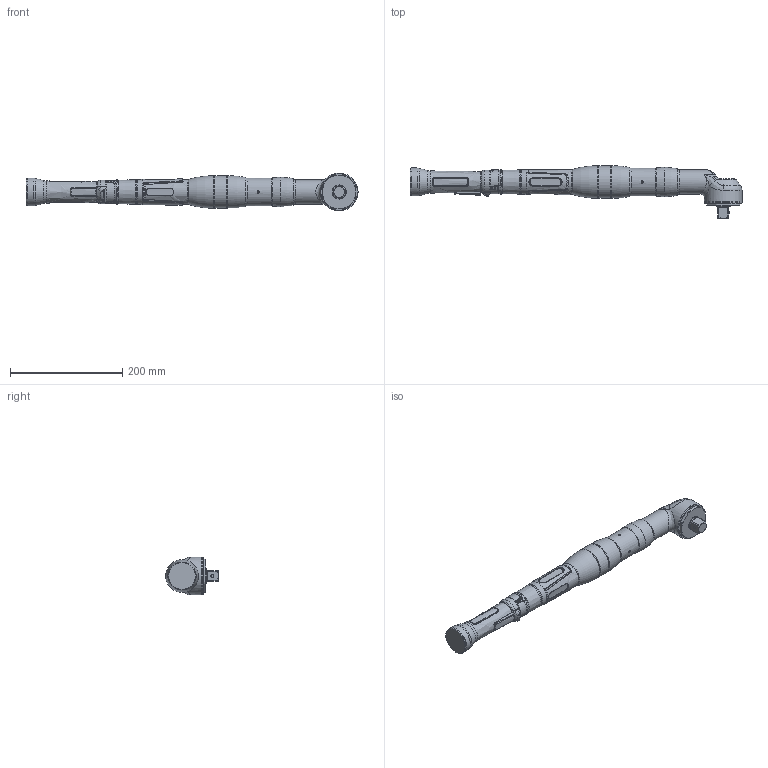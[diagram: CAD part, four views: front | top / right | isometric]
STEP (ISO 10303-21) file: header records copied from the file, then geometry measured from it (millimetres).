
FILE_DESCRIPTION (( 'STEP AP214' ), '1' );
FILE_NAME ('70058345_HSX2250WV34.STEP', '2016-11-17T07:03:12', ( 'admin' ), ( '' ), 'SwSTEP 2.0', 'SolidWorks 2014', '' );
FILE_SCHEMA (( 'AUTOMOTIVE_DESIGN' ));
Length unit declared in the file: millimetre
Products named in the file (1): 70058345_HSX2250WV34
Bounding box: 590.46 x 93.5 x 67 mm (x, y, z)
Volume: 1009377 mm3; surface area: 118449.8 mm2
Topology: 4 solids, 4 shells, 976 faces, 2385 edges, 1403 vertices
Faces by surface type: bspline 348, cylinder 243, plane 179, torus 142, cone 34, sphere 30
Full cylindrical faces by diameter (mm): 1.7 x2, 4 x5, 4.7 x1, 25 x1, 38 x1, 39 x1, 39.5 x1, 40.5 x1, 42 x2, 43 x1, 43.3 x1, 43.5 x1, 49 x1, 49.5 x1, 58 x3, 67 x2
Entity records: 41084 total; most frequent: CARTESIAN_POINT 21198, ORIENTED_EDGE 4480, DIRECTION 3470, EDGE_CURVE 2240, AXIS2_PLACEMENT_3D 1461, VERTEX_POINT 1366, EDGE_LOOP 1086, FACE_OUTER_BOUND 1039
